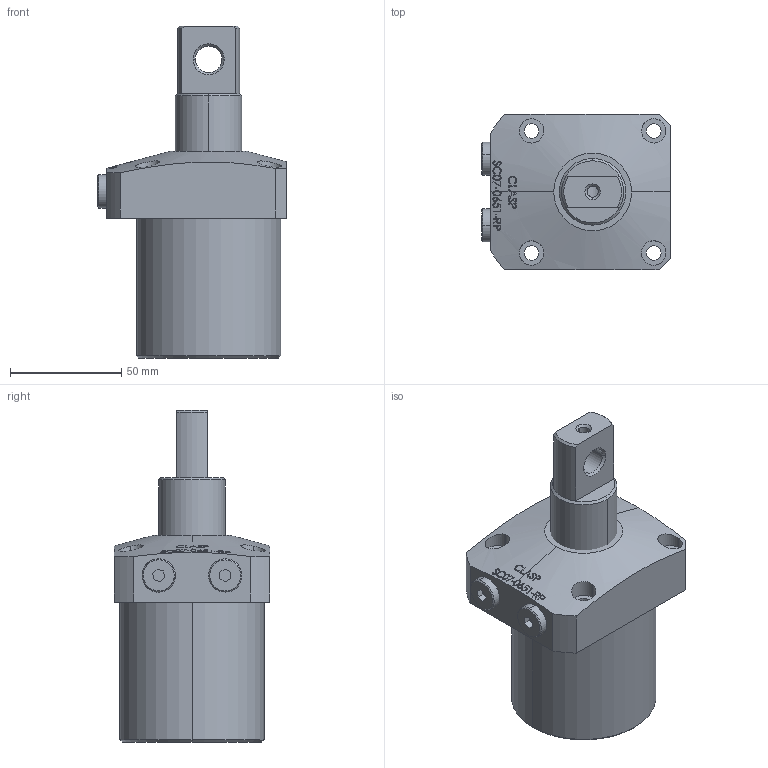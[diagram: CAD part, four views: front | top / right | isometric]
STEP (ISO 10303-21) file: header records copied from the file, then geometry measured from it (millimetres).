
FILE_DESCRIPTION (( 'STEP AP203' ), '1' );
FILE_NAME ('SC07-0651-RP.STEP', '2022-07-08T16:55:42', ( '' ), ( '' ), 'SwSTEP 2.0', 'SolidWorks 2017', '' );
FILE_SCHEMA (( 'CONFIG_CONTROL_DESIGN' ));
Length unit declared in the file: millimetre
Products named in the file (4): SC-07-0651-RP-Piston; SC-07-0651-RP-05 plug; SC07-0651-RP; SC-07-0651-RP BODY
Assembly tree (4 placements, depth 2):
  SC07-0651-RP
    SC-07-0651-RP BODY
    SC-07-0651-RP-Piston
    SC-07-0651-RP-05 plug  x2
Bounding box: 85 x 70 x 149.5 mm (x, y, z)
Volume: 394659.6 mm3; surface area: 45003.1 mm2
Topology: 4 solids, 4 shells, 324 faces, 812 edges, 534 vertices
Faces by surface type: plane 144, bspline 100, cylinder 50, cone 30
Entity records: 15417 total; most frequent: CARTESIAN_POINT 8318, ORIENTED_EDGE 1560, DIRECTION 1010, EDGE_CURVE 780, VERTEX_POINT 514, VECTOR 364, LINE 364, EDGE_LOOP 358
